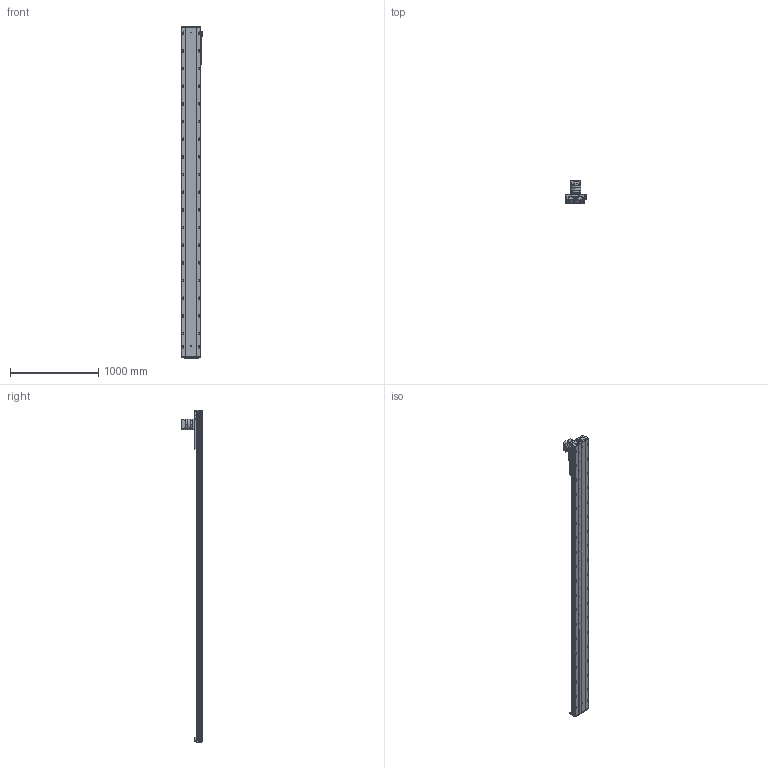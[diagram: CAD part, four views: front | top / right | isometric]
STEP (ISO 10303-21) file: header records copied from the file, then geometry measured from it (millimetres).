
FILE_DESCRIPTION (( 'STEP AP203' ), '1' );
FILE_NAME ('RY220-C-300-UK.SLDASM_3250.step', '2022-08-01T06:00:53', ( '' ), ( '' ), 'SwSTEP 2.0', 'SolidWorks 2016', '' );
FILE_SCHEMA (( 'CONFIG_CONTROL_DESIGN' ));
Length unit declared in the file: millimetre
Products named in the file (10): RY220-C-300-UK.SLDASM_3250; RY140直线电机感应器674光电安装座; RY220喘沭綴裔啣; RY220喘沭賑輸; RY220喘沭俋离覜茼え; 覜茼ん674; RY220-齿条模组电机安装板; 滅袉蝶輸ㄗG412隅秶ㄘ; RY220菁釱MK-300_3250; PF115L1-S2-22-58-110-145-M8
Assembly tree (12 placements, depth 2):
  RY220-C-300-UK.SLDASM_3250
    RY220菁釱MK-300_3250
    RY220喘沭賑輸
    RY220-齿条模组电机安装板
    PF115L1-S2-22-58-110-145-M8
    RY220喘沭綴裔啣  x2
    滅袉蝶輸ㄗG412隅秶ㄘ  x2
    RY140直线电机感应器674光电安装座
    覜茼ん674  x2
    RY220喘沭俋离覜茼え
Bounding box: 247 x 244.5 x 3759 mm (x, y, z)
Volume: 24503823.9 mm3; surface area: 5078760.4 mm2
Topology: 18 solids, 26 shells, 2492 faces, 6727 edges, 4176 vertices
Faces by surface type: cylinder 1235, plane 751, cone 344, bspline 162
Entity records: 79421 total; most frequent: CARTESIAN_POINT 21452, DIRECTION 12043, ORIENTED_EDGE 11666, EDGE_CURVE 5833, AXIS2_PLACEMENT_3D 4635, VERTEX_POINT 3802, EDGE_LOOP 2951, VECTOR 2773
